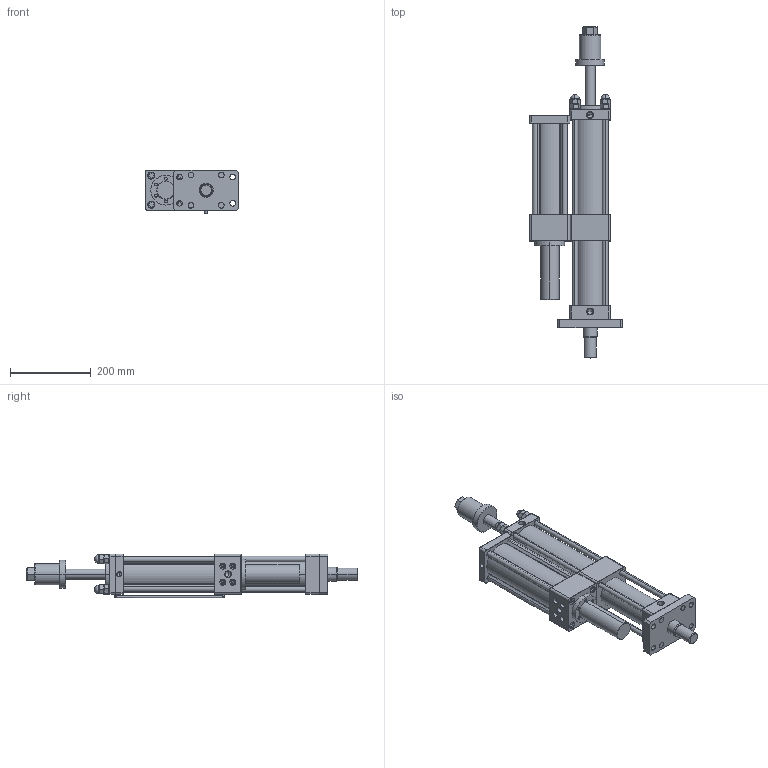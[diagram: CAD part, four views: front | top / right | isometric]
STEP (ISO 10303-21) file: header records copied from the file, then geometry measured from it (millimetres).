
FILE_DESCRIPTION (( 'STEP AP203' ), '1' );
FILE_NAME ('MPTD-63-100-15-3T.STEP', '2016-03-17T10:31:40', ( 'WIN' ), ( '' ), 'SwSTEP 2.0', 'SolidWorks 2014', '' );
FILE_SCHEMA (( 'CONFIG_CONTROL_DESIGN' ));
Length unit declared in the file: millimetre
Products named in the file (1): MPTD-63-100-15-3T
Bounding box: 230 x 823 x 109 mm (x, y, z)
Volume: 3854989.2 mm3; surface area: 796944.7 mm2
Topology: 1 solids, 8 shells, 731 faces, 1719 edges, 1063 vertices
Faces by surface type: plane 394, cylinder 225, cone 56, torus 32, bspline 24
Entity records: 21812 total; most frequent: CARTESIAN_POINT 4948, DIRECTION 3607, ORIENTED_EDGE 3386, EDGE_CURVE 1693, AXIS2_PLACEMENT_3D 1322, VERTEX_POINT 1063, VECTOR 963, LINE 963
